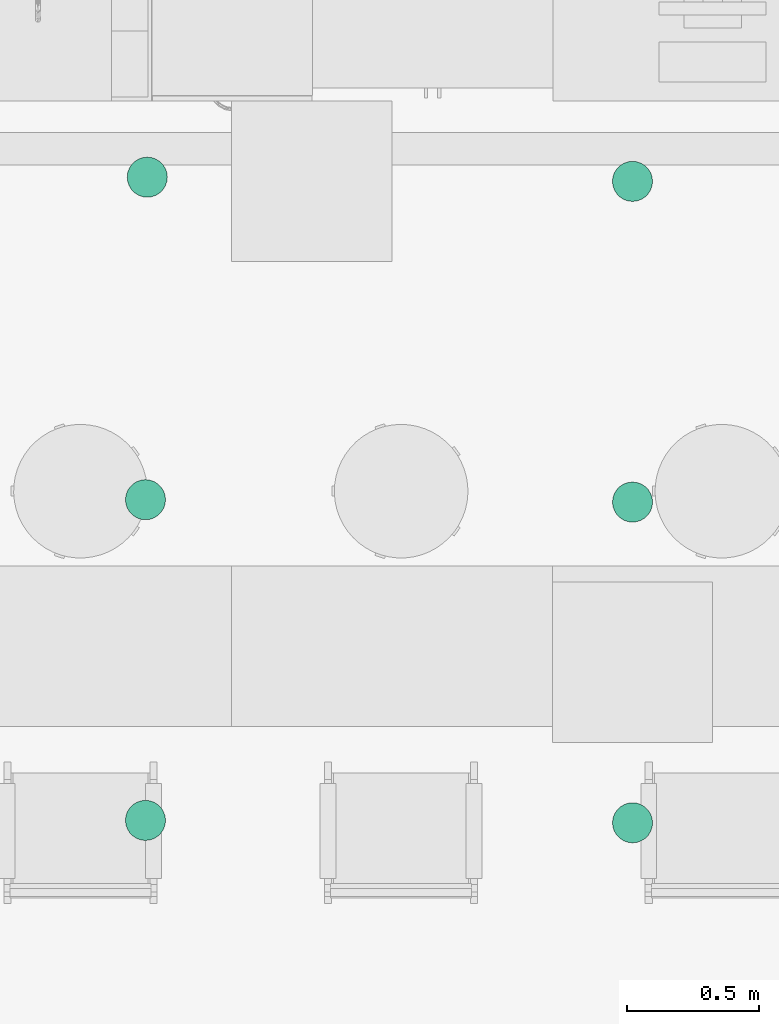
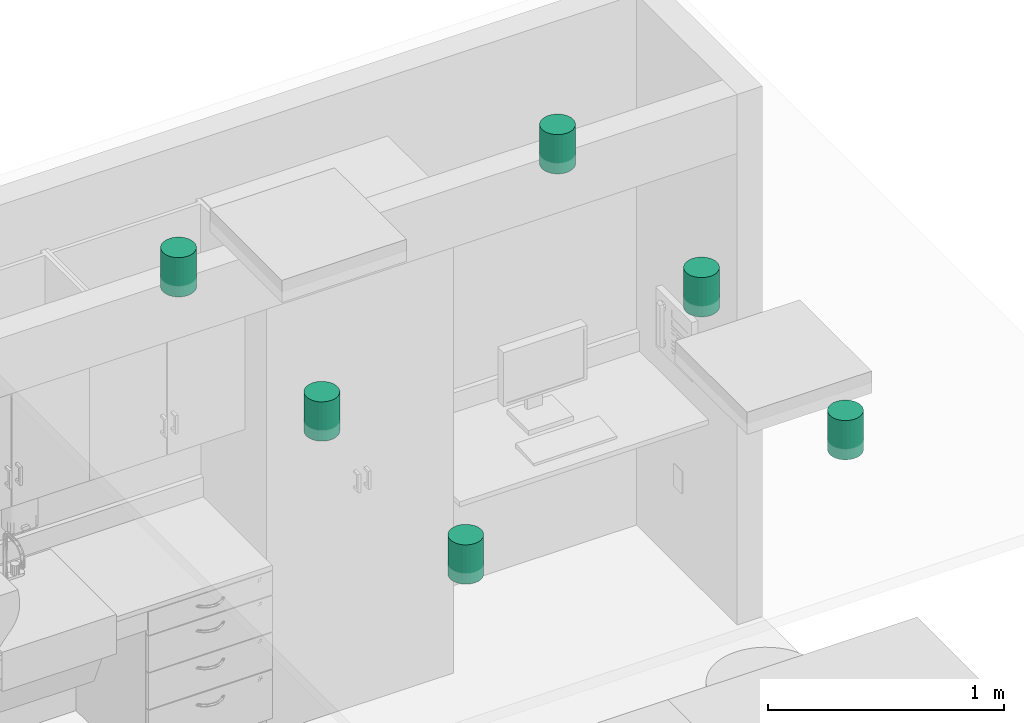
# One storey, part 3 of 8: 6 flow terminals.
"""IFC2X3 building model written with IfcOpenShell, lengths in feet."""

from ifc_helpers import new_model, entity, si_unit, converted_unit, derived_unit, direction, frame, frame_2d, origin, place, context, subcontext, project, spatial, circle, extrude, source, transform, mapped, type_object, type_shapes, element, save


model = new_model("IFC2X3")

# Units and contexts
model_context = context("Model", 3, precision=0.0001, world=origin(), true_north=direction((6.12303176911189e-17, 1.0)))
body_context = subcontext(model_context, "Body", "Model", "MODEL_VIEW")
ifc_project = project(units=[converted_unit("LENGTHUNIT", "FOOT", entity("IfcRatioMeasure", 0.3048), si_unit("LENGTHUNIT", "METRE"), dimensions=[1, 0, 0, 0, 0, 0, 0]), converted_unit("AREAUNIT", "SQUARE FOOT", entity("IfcRatioMeasure", 0.09290304), si_unit("AREAUNIT", "SQUARE_METRE"), dimensions=[2, 0, 0, 0, 0, 0, 0]), converted_unit("VOLUMEUNIT", "CUBIC FOOT", entity("IfcRatioMeasure", 0.028316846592), si_unit("VOLUMEUNIT", "CUBIC_METRE"), dimensions=[3, 0, 0, 0, 0, 0, 0]), converted_unit("PLANEANGLEUNIT", "DEGREE", entity("IfcRatioMeasure", 0.0174532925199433), si_unit("PLANEANGLEUNIT", "RADIAN"), dimensions=[0, 0, 0, 0, 0, 0, 0]), si_unit("MASSUNIT", "GRAM", prefix="KILO"), derived_unit("MASSDENSITYUNIT", [(si_unit("MASSUNIT", "GRAM", prefix="KILO"), 1), (si_unit("LENGTHUNIT", "METRE"), -3)]), si_unit("TIMEUNIT", "SECOND"), si_unit("FREQUENCYUNIT", "HERTZ"), si_unit("THERMODYNAMICTEMPERATUREUNIT", "DEGREE_CELSIUS"), derived_unit("THERMALTRANSMITTANCEUNIT", [(si_unit("MASSUNIT", "GRAM", prefix="KILO"), 1), (si_unit("THERMODYNAMICTEMPERATUREUNIT", "KELVIN"), -1), (si_unit("TIMEUNIT", "SECOND"), -3)]), derived_unit("VOLUMETRICFLOWRATEUNIT", [(si_unit("LENGTHUNIT", "METRE"), 3), (si_unit("TIMEUNIT", "SECOND"), -1)]), si_unit("ELECTRICCURRENTUNIT", "AMPERE"), si_unit("ELECTRICVOLTAGEUNIT", "VOLT"), si_unit("POWERUNIT", "WATT"), si_unit("FORCEUNIT", "NEWTON"), si_unit("ILLUMINANCEUNIT", "LUX"), si_unit("LUMINOUSFLUXUNIT", "LUMEN"), si_unit("LUMINOUSINTENSITYUNIT", "CANDELA"), derived_unit("USERDEFINED", [(si_unit("MASSUNIT", "GRAM", prefix="KILO"), -1), (si_unit("LENGTHUNIT", "METRE"), -2), (si_unit("TIMEUNIT", "SECOND"), 3), (si_unit("LUMINOUSFLUXUNIT", "LUMEN"), 1)]), derived_unit("LINEARVELOCITYUNIT", [(si_unit("LENGTHUNIT", "METRE"), 1), (si_unit("TIMEUNIT", "SECOND"), -1)]), si_unit("PRESSUREUNIT", "PASCAL"), derived_unit("USERDEFINED", [(si_unit("LENGTHUNIT", "METRE"), -2), (si_unit("MASSUNIT", "GRAM", prefix="KILO"), 1), (si_unit("TIMEUNIT", "SECOND"), -2)])], contexts=[model_context])

# Site, building, storey, space
site_placement = place(None, origin())
site = spatial("IfcSite", under=ifc_project, at=site_placement, Name="Default", CompositionType="ELEMENT")
building_placement = place(site_placement, origin())
building = spatial("IfcBuilding", under=site, at=building_placement, Name="EYE CLINIC:  OPTHALMOLOGY AND OPTOMETRY SERVICES (Ch. 233)", CompositionType="ELEMENT")
storey_placement = place(building_placement, origin())
storey = spatial("IfcBuildingStorey", under=building, at=storey_placement, Name="DATUM", CompositionType="ELEMENT", Elevation=0.0)
space_placement = place(storey_placement, origin())
space = spatial("IfcSpace", under=storey, at=space_placement, Name="(OPFD1)", CompositionType="ELEMENT", InteriorOrExteriorSpace="INTERNAL")

# Flow terminals
light_fixture_type = type_object("IfcLightFixtureType", Name="6\"", PredefinedType="NOTDEFINED")
shared_shape = source(origin(), body_context, "Body", "SweptSolid", [
    extrude(circle(Radius=0.25, at=frame_2d((0.0, -3.88578058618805e-16), x_axis=(1.0, 0.0))), frame((0.132132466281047, -0.159583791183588, 7.99242651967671)), (0.0, 0.0, 1.0), 0.666666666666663),
])
type_shapes(light_fixture_type, [shared_shape])
for number, where in (
    (1, (388.431407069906, 8.888870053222, 1.00757348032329)),
    (2, (382.379323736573, 8.94095338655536, 1.00757348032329)),
    (3, (388.432048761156, 4.88822836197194, 1.00757348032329)),
    (4, (382.356991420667, 4.91828392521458, 1.00757348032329)),
    (5, (388.432048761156, 0.888228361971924, 1.00757348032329)),
    (6, (382.356991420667, 0.918283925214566, 1.00757348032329)),
):
    element("IfcFlowTerminal", number, at=place(space_placement, frame(where)), inside=space, type_object=light_fixture_type, Name="Downlight - Recessed Can:6\"", ObjectType="6\"", context=body_context, shape_type="MappedRepresentation", body=[
        mapped(shared_shape, transform((0.0, 0.0, 0.0), scale=1.0)),
    ])

save(model, "model.ifc")
